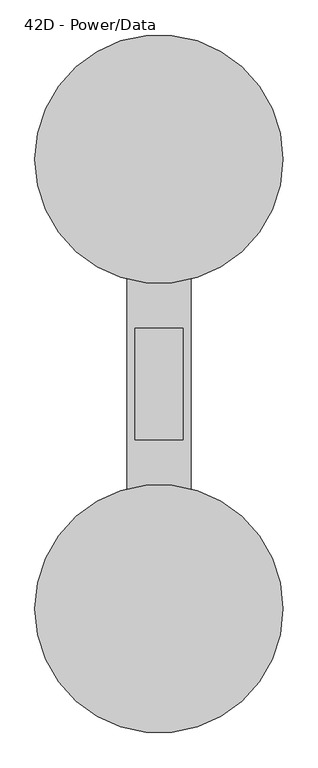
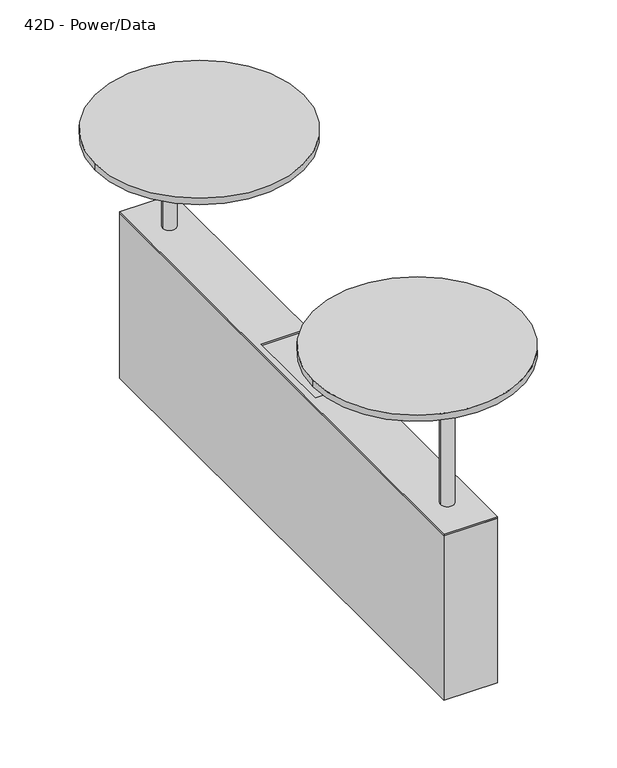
"""IFC4 building model written with IfcOpenShell, lengths in millimetres: furniture geometry, Coalesse_AM_Table_Occasional_Await_Connector : 42D - Power/Data."""

from ifc_helpers import new_model, si_unit, point, frame, frame_2d, origin, place, context, project, spatial, polyline, circle_curve, trimmed, segment, composite_curve, outline, extrude, source, transform, mapped, element, save
from ifc_brep_helpers import plane_surface, cylinder_surface, advanced_brep


def furniture_42d_power_data_b036473e(model_context):
    return source(origin(), model_context, "Body", "SolidModel", [
        advanced_brep(
        [(-625.817922, -240.9596764, 631.825), (-702.017922, -240.9596764, 631.825), (-663.917922, -240.9596764, 631.825), (-625.817922, -240.9596764, 623.8875), (-702.017922, -240.9596764, 623.8875), (-651.217922, -240.9596764, 623.8875), (-676.617922, -240.9596764, 623.8875), (-651.217922, -240.9596764, 390.525), (-676.617922, -240.9596764, 390.525), (-663.917922, -240.9596764, 390.525)],
        [
            (0, 1, circle_curve(frame((-663.917922, -240.9596764, 631.825), z_axis=(0.0, 0.0, 1.0), x_axis=(-1.0, 0.0, 0.0)), 38.1)),
            (1, 2),
            (2, 0),
            (1, 0, circle_curve(frame((-663.917922, -240.9596764, 631.825), z_axis=(0.0, 0.0, 1.0), x_axis=(-1.0, 0.0, 0.0)), 38.1)),
            (3, 4, circle_curve(frame((-663.917922, -240.9596764, 623.8875), z_axis=(0.0, 0.0, 1.0), x_axis=(-1.0, 0.0, 0.0)), 38.1)),
            (4, 1),
            (0, 3),
            (4, 3, circle_curve(frame((-663.917922, -240.9596764, 623.8875), z_axis=(0.0, 0.0, 1.0), x_axis=(-1.0, 0.0, 0.0)), 38.1)),
            (5, 6, circle_curve(frame((-663.917922, -240.9596764, 623.8875), z_axis=(0.0, 0.0, 1.0), x_axis=(-1.0, 0.0, 0.0)), 12.7)),
            (6, 4),
            (3, 5),
            (6, 5, circle_curve(frame((-663.917922, -240.9596764, 623.8875), z_axis=(0.0, 0.0, 1.0), x_axis=(-1.0, 0.0, 0.0)), 12.7)),
            (7, 8, circle_curve(frame((-663.917922, -240.9596764, 390.525), z_axis=(0.0, 0.0, 1.0), x_axis=(-1.0, 0.0, 0.0)), 12.7)),
            (8, 6),
            (5, 7),
            (8, 7, circle_curve(frame((-663.917922, -240.9596764, 390.525), z_axis=(0.0, 0.0, 1.0), x_axis=(-1.0, 0.0, 0.0)), 12.7)),
            (9, 8),
            (7, 9),
        ],
        [
            plane_surface(frame((-663.917922, -240.9596764, 631.825), z_axis=(0.0, 0.0, 1.0), x_axis=(-1.0, 0.0, 0.0))),
            cylinder_surface(frame((-663.917922, -240.9596764, 631.825), z_axis=(0.0, 0.0, -1.0), x_axis=(-1.0, 0.0, 0.0)), 38.1),
            plane_surface(frame((-663.917922, -240.9596764, 623.8875), z_axis=(0.0, 0.0, -1.0), x_axis=(-1.0, 0.0, 0.0))),
            cylinder_surface(frame((-663.917922, -240.9596764, 631.825), z_axis=(0.0, 0.0, -1.0), x_axis=(-1.0, 0.0, 0.0)), 12.7),
            plane_surface(frame((-663.917922, -240.9596764, 390.525), z_axis=(0.0, 0.0, -1.0), x_axis=(-1.0, 0.0, 0.0))),
        ],
        [
            (0, [[1, 2, 3]]),
            (0, [[4, -3, -2]]),
            (1, [[5, 6, -1, 7]]),
            (1, [[8, -7, -4, -6]]),
            (2, [[9, 10, -5, 11]]),
            (2, [[12, -11, -8, -10]]),
            (3, [[13, 14, -9, 15]]),
            (3, [[16, -15, -12, -14]]),
            (4, [[17, -13, 18]]),
            (4, [[-18, -16, -17]]),
        ],
    ),
        extrude(outline(composite_curve([segment(trimmed(circle_curve(frame_2d((-663.917922, -142.0336883)), 198.12), [point((-862.037922, -142.0336883))], [point((-465.797922, -142.0336883))], False, "CARTESIAN"), True, "CONTINUOUS"), segment(trimmed(circle_curve(frame_2d((-663.917922, -142.0336883)), 198.12), [point((-465.797922, -142.0336883))], [point((-862.037922, -142.0336883))], False, "CARTESIAN"), True, "CONTINUOUS")], self_intersect=False)), frame((0.0, 0.0, 631.825), z_axis=(0.0, 0.0, 1.0), x_axis=(1.0, 0.0, 0.0)), (0.0, 0.0, 1.0), 12.7),
        extrude(outline(composite_curve([segment(trimmed(circle_curve(frame_2d((-663.917922, 574.5143355)), 198.12), [point((-862.037922, 574.5143355))], [point((-465.797922, 574.5143355))], False, "CARTESIAN"), True, "CONTINUOUS"), segment(trimmed(circle_curve(frame_2d((-663.917922, 574.5143355)), 198.12), [point((-465.797922, 574.5143355))], [point((-862.037922, 574.5143355))], False, "CARTESIAN"), True, "CONTINUOUS")], self_intersect=False)), frame((0.0, 0.0, 631.825), z_axis=(0.0, 0.0, 1.0), x_axis=(1.0, 0.0, 0.0)), (0.0, 0.0, 1.0), 12.7),
        advanced_brep(
        [(-625.817922, 673.4403236, 631.825), (-702.017922, 673.4403236, 631.825), (-663.917922, 673.4403236, 631.825), (-625.817922, 673.4403236, 623.8875), (-702.017922, 673.4403236, 623.8875), (-651.217922, 673.4403236, 623.8875), (-676.617922, 673.4403236, 623.8875), (-651.217922, 673.4403236, 390.525), (-676.617922, 673.4403236, 390.525), (-663.917922, 673.4403236, 390.525)],
        [
            (0, 1, circle_curve(frame((-663.917922, 673.4403236, 631.825), z_axis=(0.0, 0.0, 1.0), x_axis=(-1.0, 0.0, 0.0)), 38.1)),
            (1, 2),
            (2, 0),
            (1, 0, circle_curve(frame((-663.917922, 673.4403236, 631.825), z_axis=(0.0, 0.0, 1.0), x_axis=(-1.0, 0.0, 0.0)), 38.1)),
            (3, 4, circle_curve(frame((-663.917922, 673.4403236, 623.8875), z_axis=(0.0, 0.0, 1.0), x_axis=(-1.0, 0.0, 0.0)), 38.1)),
            (4, 1),
            (0, 3),
            (4, 3, circle_curve(frame((-663.917922, 673.4403236, 623.8875), z_axis=(0.0, 0.0, 1.0), x_axis=(-1.0, 0.0, 0.0)), 38.1)),
            (5, 6, circle_curve(frame((-663.917922, 673.4403236, 623.8875), z_axis=(0.0, 0.0, 1.0), x_axis=(-1.0, 0.0, 0.0)), 12.7)),
            (6, 4),
            (3, 5),
            (6, 5, circle_curve(frame((-663.917922, 673.4403236, 623.8875), z_axis=(0.0, 0.0, 1.0), x_axis=(-1.0, 0.0, 0.0)), 12.7)),
            (7, 8, circle_curve(frame((-663.917922, 673.4403236, 390.525), z_axis=(0.0, 0.0, 1.0), x_axis=(-1.0, 0.0, 0.0)), 12.7)),
            (8, 6),
            (5, 7),
            (8, 7, circle_curve(frame((-663.917922, 673.4403236, 390.525), z_axis=(0.0, 0.0, 1.0), x_axis=(-1.0, 0.0, 0.0)), 12.7)),
            (9, 8),
            (7, 9),
        ],
        [
            plane_surface(frame((-663.917922, 673.4403236, 631.825), z_axis=(0.0, 0.0, 1.0), x_axis=(-1.0, 0.0, 0.0))),
            cylinder_surface(frame((-663.917922, 673.4403236, 631.825), z_axis=(0.0, 0.0, -1.0), x_axis=(-1.0, 0.0, 0.0)), 38.1),
            plane_surface(frame((-663.917922, 673.4403236, 623.8875), z_axis=(0.0, 0.0, -1.0), x_axis=(-1.0, 0.0, 0.0))),
            cylinder_surface(frame((-663.917922, 673.4403236, 631.825), z_axis=(0.0, 0.0, -1.0), x_axis=(-1.0, 0.0, 0.0)), 12.7),
            plane_surface(frame((-663.917922, 673.4403236, 390.525), z_axis=(0.0, 0.0, -1.0), x_axis=(-1.0, 0.0, 0.0))),
        ],
        [
            (0, [[1, 2, 3]]),
            (0, [[4, -3, -2]]),
            (1, [[5, 6, -1, 7]]),
            (1, [[8, -7, -4, -6]]),
            (2, [[9, 10, -5, 11]]),
            (2, [[12, -11, -8, -10]]),
            (3, [[13, 14, -9, 15]]),
            (3, [[16, -15, -12, -14]]),
            (4, [[17, -13, 18]]),
            (4, [[-18, -16, -17]]),
        ],
    ),
        extrude(outline(polyline([(-613.117922, 749.6403236), (-613.117922, -317.1596764), (-714.717922, -317.1596764), (-714.717922, 749.6403236), (-613.117922, 749.6403236)]), holes=[polyline([(-625.817922, 305.1403236), (-702.017922, 305.1403236), (-702.017922, 127.3403236), (-625.817922, 127.3403236), (-625.817922, 305.1403236)])]), frame((0.0, 0.0, 387.35), z_axis=(0.0, 0.0, 1.0), x_axis=(1.0, 0.0, 0.0)), (0.0, 0.0, 1.0), 3.175),
        extrude(outline(polyline([(-613.117922, 749.6403236), (-613.117922, -317.1596764), (-714.717922, -317.1596764), (-714.717922, 749.6403236), (-613.117922, 749.6403236)])), frame((0.0, 0.0, 57.15), z_axis=(0.0, 0.0, 1.0), x_axis=(1.0, 0.0, 0.0)), (0.0, 0.0, 1.0), 330.2),
    ])


if __name__ == "__main__":
    model = new_model("IFC4")
    model_context = context("Model", 3, world=origin())
    ifc_project = project(units=[si_unit("LENGTHUNIT", "METRE", prefix="MILLI")], contexts=[model_context])
    site = spatial("IfcSite", under=ifc_project)
    building = spatial("IfcBuilding", under=site)
    placement = place(None, origin())
    furniture_42d_power_data_shape = furniture_42d_power_data_b036473e(model_context)
    element("IfcFurniture", 1, ObjectType="Coalesse_AM_Table_Occasional_Await_Connector : 42D - Power/Data", at=placement, inside=building, context=model_context, shape_type="MappedRepresentation", body=[
        mapped(furniture_42d_power_data_shape, transform((0.0, 0.0, 0.0), x_axis=(1.0, 0.0, 0.0), y_axis=(0.0, 1.0, 0.0), z_axis=(0.0, 0.0, 1.0))),
    ])
    save(model, "model.ifc")
